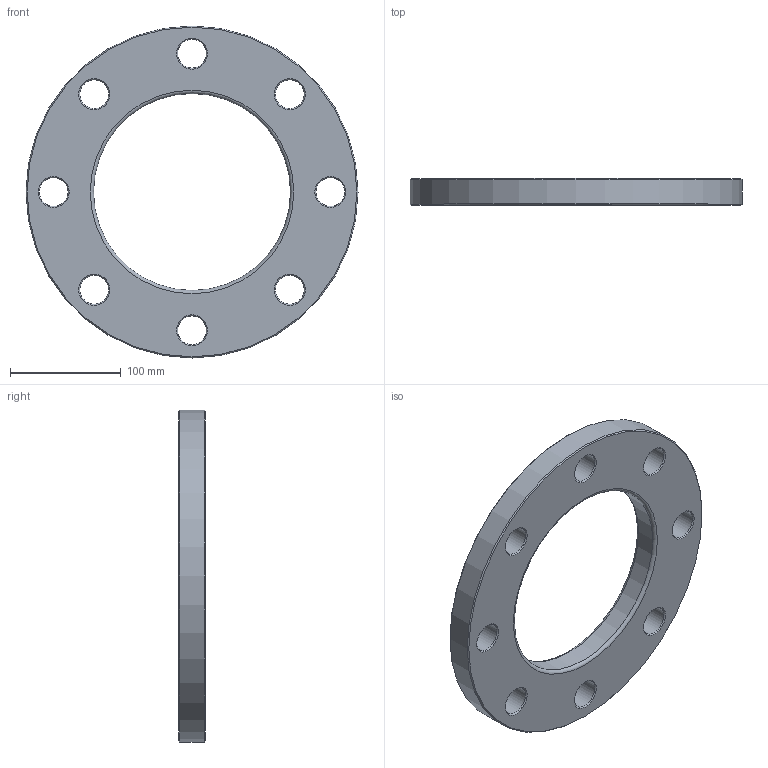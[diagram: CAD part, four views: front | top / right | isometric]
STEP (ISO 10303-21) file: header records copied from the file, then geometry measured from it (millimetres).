
FILE_DESCRIPTION(/* description */ ('Unknown'),/* implementation_level */ '2;1');
FILE_NAME(/* name */ 'FZ160L',/* time_stamp */ '2021-03-15T15:28:39+01:00',/* author */ ('Unknown'),/* organization */ ('Unknown'),/* preprocessor_version */ 'ST-DEVELOPER v16.7',/* originating_system */ 'Solid Edge',/* authorisation */ 'Unknown');
FILE_SCHEMA (('AUTOMOTIVE_DESIGN {1 0 10303 214 3 1 1}'));
Length unit declared in the file: millimetre
Products named in the file (1): FZ160L
Bounding box: 300 x 24 x 300 mm (x, y, z)
Volume: 993505.3 mm3; surface area: 131547.3 mm2
Topology: 1 solids, 1 shells, 32 faces, 94 edges, 64 vertices
Faces by surface type: cone 18, cylinder 10, plane 2, torus 2
Full cylindrical faces by diameter (mm): 26 x8, 178 x1, 300 x1
Entity records: 790 total; most frequent: DIRECTION 146, CARTESIAN_POINT 113, ORIENTED_EDGE 80, EDGE_LOOP 80, FACE_BOUND 80, AXIS2_PLACEMENT_3D 73, EDGE_CURVE 40, VERTEX_POINT 40
